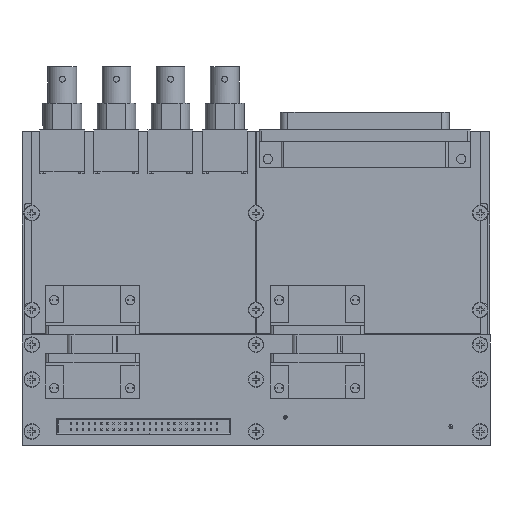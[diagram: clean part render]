
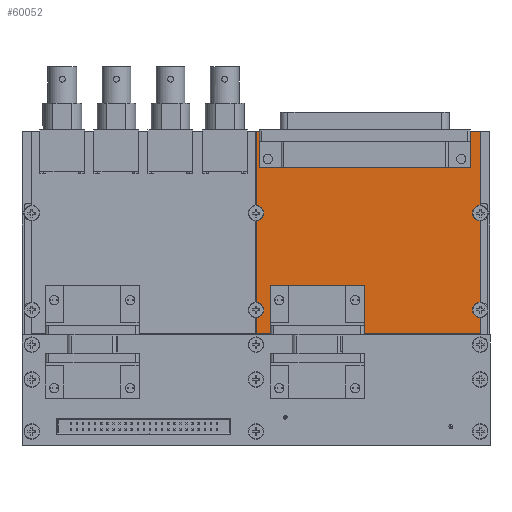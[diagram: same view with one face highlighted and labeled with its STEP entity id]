
A CAD part, left-side view. The second image highlights one B-rep face of the part: STEP entity #60052.
In plain terms, the highlighted planar face has unit normal (-1, 0, 0).
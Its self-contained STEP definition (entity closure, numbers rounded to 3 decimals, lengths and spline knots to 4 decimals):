
#8232=CARTESIAN_POINT('',(-0.4426,2.8992,2.824));
#8233=DIRECTION('',(1.,0.,0.));
#8234=DIRECTION('',(0.,-1.,0.));
#8235=AXIS2_PLACEMENT_3D('',#8232,#8233,#8234);
#8237=CARTESIAN_POINT('',(-0.4426,2.8992,2.824));
#8238=DIRECTION('',(1.,0.,0.));
#8239=DIRECTION('',(0.,-0.105,0.995));
#8240=AXIS2_PLACEMENT_3D('',#8237,#8238,#8239);
#8242=DIRECTION('',(0.,0.,-1.));
#8243=VECTOR('',#8242,0.9554);
#8244=CARTESIAN_POINT('',(-0.4426,2.8892,
3.8738));
#8245=LINE('',#8244,#8243);
#8246=DIRECTION('',(0.,1.,0.));
#8247=VECTOR('',#8246,0.03);
#8248=CARTESIAN_POINT('',(-0.4426,2.8592,
3.8738));
#8249=LINE('',#8248,#8247);
#8250=DIRECTION('',(0.,0.,-1.));
#8251=VECTOR('',#8250,0.463);
#8252=CARTESIAN_POINT('',(-0.4426,2.8592,
3.8738));
#8253=LINE('',#8252,#8251);
#8254=DIRECTION('',(0.,-1.,0.));
#8255=VECTOR('',#8254,2.729);
#8256=CARTESIAN_POINT('',(-0.4426,2.8592,
3.4108));
#8257=LINE('',#8256,#8255);
#8258=DIRECTION('',(0.,0.,-1.));
#8259=VECTOR('',#8258,0.463);
#8260=CARTESIAN_POINT('',(-0.4426,0.1302,
3.8738));
#8261=LINE('',#8260,#8259);
#8262=DIRECTION('',(0.,1.,0.));
#8263=VECTOR('',#8262,0.13);
#8264=CARTESIAN_POINT('',(-0.4426,0.0002,
3.8738));
#8265=LINE('',#8264,#8263);
#8266=DIRECTION('',(0.,0.,1.));
#8267=VECTOR('',#8266,0.9548);
#8268=CARTESIAN_POINT('',(-0.4426,0.0002,
2.919));
#8269=LINE('',#8268,#8267);
#8270=CARTESIAN_POINT('',(-0.4426,0.0002,
2.824));
#8271=DIRECTION('',(1.,0.,0.));
#8272=DIRECTION('',(0.,1.,0.));
#8273=AXIS2_PLACEMENT_3D('',#8270,#8271,#8272);
#8275=CARTESIAN_POINT('',(-0.4426,0.0002,
2.824));
#8276=DIRECTION('',(1.,0.,0.));
#8277=DIRECTION('',(0.,0.,-1.));
#8278=AXIS2_PLACEMENT_3D('',#8275,#8276,#8277);
#8280=DIRECTION('',(0.,0.,1.));
#8281=VECTOR('',#8280,1.061);
#8282=CARTESIAN_POINT('',(-0.4426,0.0002,
1.668));
#8283=LINE('',#8282,#8281);
#8284=CARTESIAN_POINT('',(-0.4426,0.0003,
1.573));
#8285=DIRECTION('',(1.,0.,0.));
#8286=DIRECTION('',(0.,1.,0.));
#8287=AXIS2_PLACEMENT_3D('',#8284,#8285,#8286);
#8289=CARTESIAN_POINT('',(-0.4426,0.0003,
1.573));
#8290=DIRECTION('',(1.,0.,0.));
#8291=DIRECTION('',(0.,0.,-1.));
#8292=AXIS2_PLACEMENT_3D('',#8289,#8290,#8291);
#8294=DIRECTION('',(0.,0.,1.));
#8295=VECTOR('',#8294,0.2042);
#8296=CARTESIAN_POINT('',(-0.4426,0.0002,
1.2738));
#8297=LINE('',#8296,#8295);
#8298=DIRECTION('',(0.,-1.,0.));
#8299=VECTOR('',#8298,1.5015);
#8300=CARTESIAN_POINT('',(-0.4426,1.5017,
1.2738));
#8301=LINE('',#8300,#8299);
#8302=DIRECTION('',(0.,0.,1.));
#8303=VECTOR('',#8302,0.6135);
#8304=CARTESIAN_POINT('',(-0.4426,1.5017,
1.2738));
#8305=LINE('',#8304,#8303);
#8306=DIRECTION('',(0.,-1.,0.));
#8307=VECTOR('',#8306,1.213);
#8308=CARTESIAN_POINT('',(-0.4426,2.7147,
1.8873));
#8309=LINE('',#8308,#8307);
#8310=DIRECTION('',(0.,0.,1.));
#8311=VECTOR('',#8310,0.6135);
#8312=CARTESIAN_POINT('',(-0.4426,2.7147,
1.2738));
#8313=LINE('',#8312,#8311);
#8314=DIRECTION('',(0.,-1.,0.));
#8315=VECTOR('',#8314,0.1745);
#8316=CARTESIAN_POINT('',(-0.4426,2.8892,
1.2738));
#8317=LINE('',#8316,#8315);
#8318=DIRECTION('',(0.,0.,-1.));
#8319=VECTOR('',#8318,0.2047);
#8320=CARTESIAN_POINT('',(-0.4426,2.8892,
1.4785));
#8321=LINE('',#8320,#8319);
#8322=CARTESIAN_POINT('',(-0.4426,2.8992,1.573));
#8323=DIRECTION('',(1.,0.,0.));
#8324=DIRECTION('',(0.,-1.,0.));
#8325=AXIS2_PLACEMENT_3D('',#8322,#8323,#8324);
#8327=CARTESIAN_POINT('',(-0.4426,2.8992,1.573));
#8328=DIRECTION('',(1.,0.,0.));
#8329=DIRECTION('',(0.,-0.105,0.995));
#8330=AXIS2_PLACEMENT_3D('',#8327,#8328,#8329);
#8332=DIRECTION('',(0.,0.,-1.));
#8333=VECTOR('',#8332,1.062);
#8334=CARTESIAN_POINT('',(-0.4426,2.8892,
2.7295));
#8335=LINE('',#8334,#8333);
#45503=CARTESIAN_POINT('',(-0.4426,0.0002,
3.8738));
#45504=VERTEX_POINT('',#45503);
#45505=CARTESIAN_POINT('',(-0.4426,2.8892,
3.8738));
#45506=VERTEX_POINT('',#45505);
#45886=CARTESIAN_POINT('',(-0.4426,2.7147,
1.8873));
#45887=CARTESIAN_POINT('',(-0.4426,1.5017,
1.8873));
#45888=VERTEX_POINT('',#45886);
#45889=VERTEX_POINT('',#45887);
#45890=CARTESIAN_POINT('',(-0.4426,2.7147,
1.2738));
#45891=VERTEX_POINT('',#45890);
#45892=CARTESIAN_POINT('',(-0.4426,1.5017,
1.2738));
#45893=VERTEX_POINT('',#45892);
#45902=CARTESIAN_POINT('',(-0.4426,2.8892,
1.2738));
#45903=VERTEX_POINT('',#45902);
#45904=CARTESIAN_POINT('',(-0.4426,0.0002,
1.2738));
#45905=VERTEX_POINT('',#45904);
#46342=CARTESIAN_POINT('',(-0.4426,0.1302,
3.8738));
#46343=CARTESIAN_POINT('',(-0.4426,0.1302,
3.4108));
#46344=VERTEX_POINT('',#46342);
#46345=VERTEX_POINT('',#46343);
#46346=CARTESIAN_POINT('',(-0.4426,2.8592,
3.8738));
#46347=CARTESIAN_POINT('',(-0.4426,2.8592,
3.4108));
#46348=VERTEX_POINT('',#46346);
#46349=VERTEX_POINT('',#46347);
#48364=CARTESIAN_POINT('',(-0.4426,0.0002,
1.478));
#48365=CARTESIAN_POINT('',(-0.4426,0.0953,
1.573));
#48366=VERTEX_POINT('',#48364);
#48367=VERTEX_POINT('',#48365);
#48368=CARTESIAN_POINT('',(-0.4426,0.0002,
1.668));
#48369=VERTEX_POINT('',#48368);
#48630=CARTESIAN_POINT('',(-0.4426,2.8042,
1.573));
#48631=CARTESIAN_POINT('',(-0.4426,2.8892,
1.4785));
#48632=VERTEX_POINT('',#48630);
#48633=VERTEX_POINT('',#48631);
#48634=CARTESIAN_POINT('',(-0.4426,2.8892,
1.6675));
#48635=VERTEX_POINT('',#48634);
#49082=CARTESIAN_POINT('',(-0.4426,0.0002,
2.729));
#49083=CARTESIAN_POINT('',(-0.4426,0.0952,
2.824));
#49084=VERTEX_POINT('',#49082);
#49085=VERTEX_POINT('',#49083);
#49086=CARTESIAN_POINT('',(-0.4426,0.0002,
2.919));
#49087=VERTEX_POINT('',#49086);
#49254=CARTESIAN_POINT('',(-0.4426,2.8042,
2.824));
#49255=CARTESIAN_POINT('',(-0.4426,2.8892,
2.7295));
#49256=VERTEX_POINT('',#49254);
#49257=VERTEX_POINT('',#49255);
#49258=CARTESIAN_POINT('',(-0.4426,2.8892,
2.9185));
#49259=VERTEX_POINT('',#49258);
#59998=CARTESIAN_POINT('',(-0.4426,1.4447,
2.5738));
#59999=DIRECTION('',(-1.,0.,0.));
#60000=DIRECTION('',(0.,1.,0.));
#60001=AXIS2_PLACEMENT_3D('',#59998,#59999,#60000);
#60002=PLANE('',#60001);
#60004=ORIENTED_EDGE('',*,*,#60003,.F.);
#60006=ORIENTED_EDGE('',*,*,#60005,.F.);
#60008=ORIENTED_EDGE('',*,*,#60007,.F.);
#60010=ORIENTED_EDGE('',*,*,#60009,.F.);
#60012=ORIENTED_EDGE('',*,*,#60011,.T.);
#60014=ORIENTED_EDGE('',*,*,#60013,.T.);
#60016=ORIENTED_EDGE('',*,*,#60015,.F.);
#60018=ORIENTED_EDGE('',*,*,#60017,.F.);
#60020=ORIENTED_EDGE('',*,*,#60019,.F.);
#60022=ORIENTED_EDGE('',*,*,#60021,.F.);
#60024=ORIENTED_EDGE('',*,*,#60023,.F.);
#60026=ORIENTED_EDGE('',*,*,#60025,.F.);
#60028=ORIENTED_EDGE('',*,*,#60027,.F.);
#60030=ORIENTED_EDGE('',*,*,#60029,.F.);
#60032=ORIENTED_EDGE('',*,*,#60031,.F.);
#60034=ORIENTED_EDGE('',*,*,#60033,.F.);
#60035=ORIENTED_EDGE('',*,*,#59979,.T.);
#60037=ORIENTED_EDGE('',*,*,#60036,.F.);
#60039=ORIENTED_EDGE('',*,*,#60038,.F.);
#60041=ORIENTED_EDGE('',*,*,#60040,.F.);
#60043=ORIENTED_EDGE('',*,*,#60042,.F.);
#60045=ORIENTED_EDGE('',*,*,#60044,.F.);
#60047=ORIENTED_EDGE('',*,*,#60046,.F.);
#60049=ORIENTED_EDGE('',*,*,#60048,.F.);
#60050=EDGE_LOOP('',(#60004,#60006,#60008,#60010,#60012,#60014,#60016,#60018,
#60020,#60022,#60024,#60026,#60028,#60030,#60032,#60034,#60035,#60037,#60039,
#60041,#60043,#60045,#60047,#60049));
#60051=FACE_OUTER_BOUND('',#60050,.F.);
#60052=ADVANCED_FACE('',(#60051),#60002,.T.);
#8236=CIRCLE('',#8235,0.095);
#8241=CIRCLE('',#8240,0.095);
#8274=CIRCLE('',#8273,0.095);
#8279=CIRCLE('',#8278,0.095);
#8288=CIRCLE('',#8287,0.095);
#8293=CIRCLE('',#8292,0.095);
#8326=CIRCLE('',#8325,0.095);
#8331=CIRCLE('',#8330,0.095);
#59979=EDGE_CURVE('',#45893,#45889,#8305,.T.);
#60003=EDGE_CURVE('',#49256,#49257,#8236,.T.);
#60005=EDGE_CURVE('',#49259,#49256,#8241,.T.);
#60007=EDGE_CURVE('',#45506,#49259,#8245,.T.);
#60009=EDGE_CURVE('',#46348,#45506,#8249,.T.);
#60011=EDGE_CURVE('',#46348,#46349,#8253,.T.);
#60013=EDGE_CURVE('',#46349,#46345,#8257,.T.);
#60015=EDGE_CURVE('',#46344,#46345,#8261,.T.);
#60017=EDGE_CURVE('',#45504,#46344,#8265,.T.);
#60019=EDGE_CURVE('',#49087,#45504,#8269,.T.);
#60021=EDGE_CURVE('',#49085,#49087,#8274,.T.);
#60023=EDGE_CURVE('',#49084,#49085,#8279,.T.);
#60025=EDGE_CURVE('',#48369,#49084,#8283,.T.);
#60027=EDGE_CURVE('',#48367,#48369,#8288,.T.);
#60029=EDGE_CURVE('',#48366,#48367,#8293,.T.);
#60031=EDGE_CURVE('',#45905,#48366,#8297,.T.);
#60033=EDGE_CURVE('',#45893,#45905,#8301,.T.);
#60036=EDGE_CURVE('',#45888,#45889,#8309,.T.);
#60038=EDGE_CURVE('',#45891,#45888,#8313,.T.);
#60040=EDGE_CURVE('',#45903,#45891,#8317,.T.);
#60042=EDGE_CURVE('',#48633,#45903,#8321,.T.);
#60044=EDGE_CURVE('',#48632,#48633,#8326,.T.);
#60046=EDGE_CURVE('',#48635,#48632,#8331,.T.);
#60048=EDGE_CURVE('',#49257,#48635,#8335,.T.);
